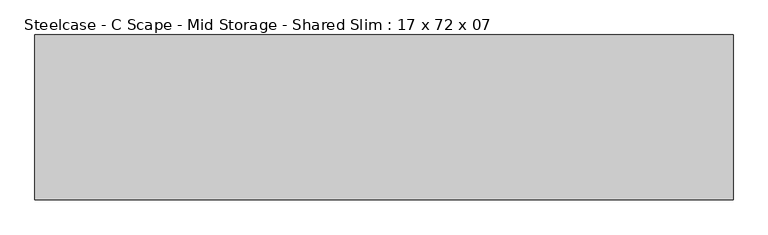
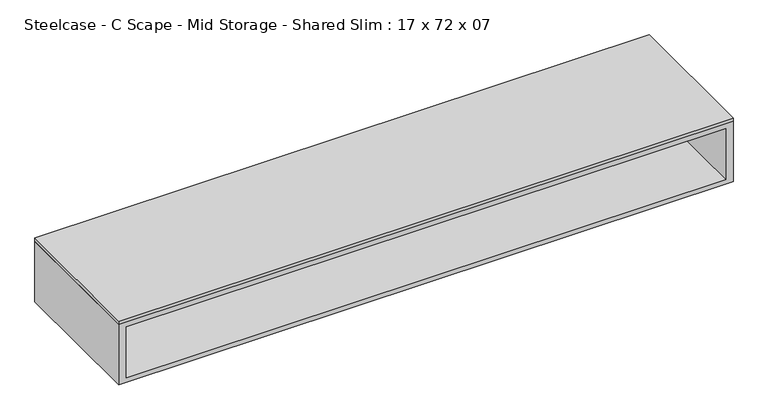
"""IFC4 building model written with IfcOpenShell, lengths in millimetres: furniture geometry, Steelcase - C Scape - Mid Storage - Shared Slim : 17 x 72 x 07."""

from ifc_helpers import new_model, si_unit, frame, origin, place, context, project, spatial, polyline, outline, extrude, source, transform, mapped, element, save


def steelcase_c_scape_mid_storage_shared_slim_17_x_72_x_07_27b4ef21(model_context):
    return source(origin(), model_context, "Body", "SweptSolid", [
        extrude(outline(polyline([(1828.8, 215.9), (1828.8, -215.9), (0.0, -215.9), (0.0, 215.9), (1828.8, 215.9)])), frame((0.0, 0.0, 1028.7), z_axis=(0.0, 0.0, 1.0), x_axis=(1.0, 0.0, 0.0)), (0.0, 0.0, 1.0), 10.16),
        extrude(outline(polyline([(1806.702, 3.1751841), (1806.702, -3.1744283), (21.9711633, -3.1744283), (21.9711633, 3.1751841), (1806.702, 3.1751841)])), frame((0.0, 0.0, 853.4399855), z_axis=(0.0, 0.0, 1.0), x_axis=(1.0, 0.0, 0.0)), (0.0, 0.0, 1.0), 160.0200145),
        extrude(outline(polyline([(1028.7, 1828.8), (1028.7, 0.0), (838.2, 0.0), (838.2, 1828.8), (1028.7, 1828.8)]), holes=[polyline([(1013.46, 1806.702), (853.4399855, 1806.702), (853.4399855, 21.9711633), (1013.46, 21.9711633), (1013.46, 1806.702)])]), frame((0.0, -215.9, 0.0), z_axis=(0.0, 1.0, 0.0), x_axis=(0.0, 0.0, 1.0)), (0.0, 0.0, 1.0), 431.8),
    ])


if __name__ == "__main__":
    model = new_model("IFC4")
    model_context = context("Model", 3, world=origin())
    ifc_project = project(units=[si_unit("LENGTHUNIT", "METRE", prefix="MILLI")], contexts=[model_context])
    site = spatial("IfcSite", under=ifc_project)
    building = spatial("IfcBuilding", under=site)
    placement = place(None, origin())
    steelcase_c_scape_mid_storage_shared_slim_17_x_72_x_07_shape = steelcase_c_scape_mid_storage_shared_slim_17_x_72_x_07_27b4ef21(model_context)
    element("IfcFurniture", 1, ObjectType="Steelcase - C Scape - Mid Storage - Shared Slim : 17 x 72 x 07", at=placement, inside=building, context=model_context, shape_type="MappedRepresentation", body=[
        mapped(steelcase_c_scape_mid_storage_shared_slim_17_x_72_x_07_shape, transform((0.0, 0.0, 0.0), x_axis=(1.0, 0.0, 0.0), y_axis=(0.0, 1.0, 0.0), z_axis=(0.0, 0.0, 1.0))),
    ])
    save(model, "model.ifc")
